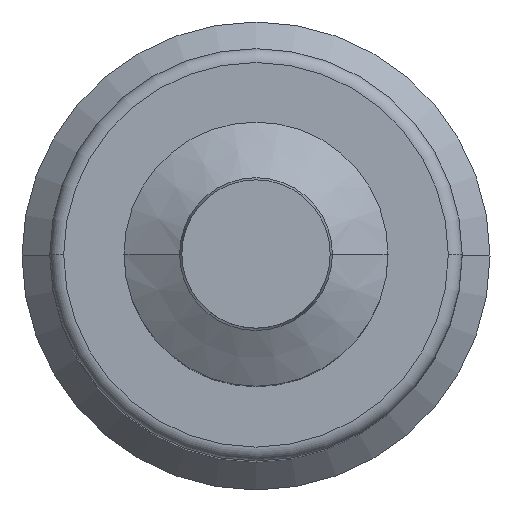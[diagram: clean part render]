
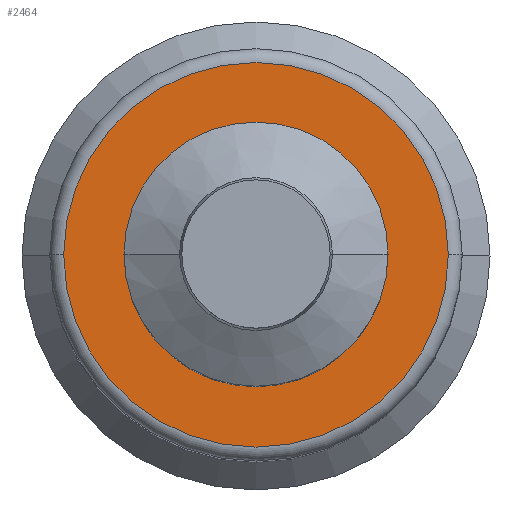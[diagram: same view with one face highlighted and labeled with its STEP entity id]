
A CAD part, top view. The second image highlights one B-rep face of the part: STEP entity #2464.
In plain terms, the highlighted planar face has unit normal (0, 0, 1).
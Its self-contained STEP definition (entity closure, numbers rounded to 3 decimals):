
#2121 = VERTEX_POINT ( 'NONE', #4676 ) ;
#2126 = VERTEX_POINT ( 'NONE', #4681 ) ;
#2131 = VERTEX_POINT ( 'NONE', #4686 ) ;
#2167 = VERTEX_POINT ( 'NONE', #4722 ) ;
#2464 = ADVANCED_FACE ( 'NONE', ( #7868, #7869 ), #4318, .F. ) ;
#4318 = PLANE ( 'NONE',  #14988 ) ;
#4319 = CARTESIAN_POINT ( 'NONE',  ( 0., 0., 195. ) ) ;
#4320 = DIRECTION ( 'NONE',  ( 0., 0., -1. ) ) ;
#4321 = DIRECTION ( 'NONE',  ( 1., 0., 0. ) ) ;
#4676 = CARTESIAN_POINT ( 'NONE',  ( -28.5, 0., 195. ) ) ;
#4681 = CARTESIAN_POINT ( 'NONE',  ( -41.5, 0., 195. ) ) ;
#4686 = CARTESIAN_POINT ( 'NONE',  ( 28.5, 0., 195. ) ) ;
#4722 = CARTESIAN_POINT ( 'NONE',  ( 41.5, 0., 195. ) ) ;
#5615 = EDGE_CURVE ( 'NONE', #2131, #2121, #8560, .T. ) ;
#5616 = EDGE_CURVE ( 'NONE', #2126, #2167, #8561, .T. ) ;
#5629 = EDGE_CURVE ( 'NONE', #2167, #2126, #8579, .T. ) ;
#5640 = EDGE_CURVE ( 'NONE', #2121, #2131, #8597, .T. ) ;
#7012 = ORIENTED_EDGE ( 'NONE', *, *, #5615, .F. ) ;
#7013 = ORIENTED_EDGE ( 'NONE', *, *, #5640, .F. ) ;
#7014 = ORIENTED_EDGE ( 'NONE', *, *, #5629, .F. ) ;
#7015 = ORIENTED_EDGE ( 'NONE', *, *, #5616, .F. ) ;
#7868 = FACE_BOUND ( 'NONE', #14432, .T. ) ;
#7869 = FACE_OUTER_BOUND ( 'NONE', #14433, .T. ) ;
#8344 = CARTESIAN_POINT ( 'NONE',  ( 0., 0., 195. ) ) ;
#8345 = DIRECTION ( 'NONE',  ( 0., 0., 1. ) ) ;
#8346 = DIRECTION ( 'NONE',  ( 1., 0., 0. ) ) ;
#8347 = CARTESIAN_POINT ( 'NONE',  ( 0., 0., 195. ) ) ;
#8348 = DIRECTION ( 'NONE',  ( 0., 0., -1. ) ) ;
#8349 = DIRECTION ( 'NONE',  ( 1., 0., 0. ) ) ;
#8382 = CARTESIAN_POINT ( 'NONE',  ( 0., 0., 195. ) ) ;
#8383 = DIRECTION ( 'NONE',  ( 0., 0., -1. ) ) ;
#8384 = DIRECTION ( 'NONE',  ( 1., 0., 0. ) ) ;
#8408 = CARTESIAN_POINT ( 'NONE',  ( 0., 0., 195. ) ) ;
#8409 = DIRECTION ( 'NONE',  ( 0., 0., 1. ) ) ;
#8410 = DIRECTION ( 'NONE',  ( 1., 0., 0. ) ) ;
#8560 = CIRCLE ( 'NONE', #15499, 28.5 ) ;
#8561 = CIRCLE ( 'NONE', #15500, 41.5 ) ;
#8579 = CIRCLE ( 'NONE', #15509, 41.5 ) ;
#8597 = CIRCLE ( 'NONE', #15513, 28.5 ) ;
#14432 = EDGE_LOOP ( 'NONE', ( #7012, #7013 ) ) ;
#14433 = EDGE_LOOP ( 'NONE', ( #7014, #7015 ) ) ;
#14988 = AXIS2_PLACEMENT_3D ( 'NONE', #4319, #4320, #4321 ) ;
#15499 = AXIS2_PLACEMENT_3D ( 'NONE', #8344, #8345, #8346 ) ;
#15500 = AXIS2_PLACEMENT_3D ( 'NONE', #8347, #8348, #8349 ) ;
#15509 = AXIS2_PLACEMENT_3D ( 'NONE', #8382, #8383, #8384 ) ;
#15513 = AXIS2_PLACEMENT_3D ( 'NONE', #8408, #8409, #8410 ) ;
